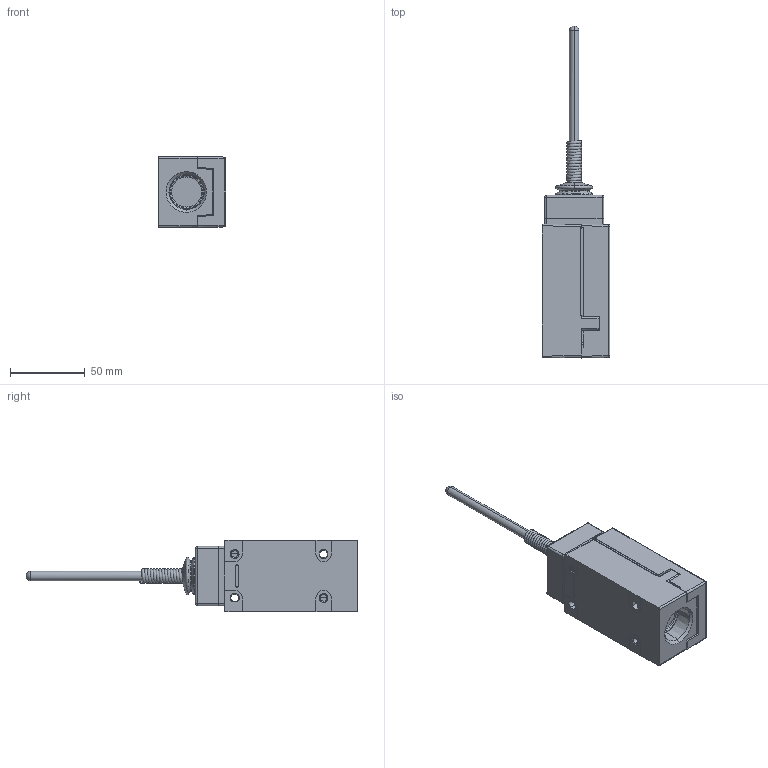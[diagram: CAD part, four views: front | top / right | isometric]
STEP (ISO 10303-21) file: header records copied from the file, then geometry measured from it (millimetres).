
FILE_DESCRIPTION((''),'2;1');
FILE_NAME('LSJ2B-7A','2012-12-06T',('E522935'),(''),'PRO/ENGINEER BY PARAMETRIC TECHNOLOGY CORPORATION, 2009460','PRO/ENGINEER BY PARAMETRIC TECHNOLOGY CORPORATION, 2009460','');
FILE_SCHEMA(('CONFIG_CONTROL_DESIGN'));
Length unit declared in the file: inch
Products named in the file (1): LSJ2B-7A
Bounding box: 45.34 x 222.28 x 47.62 mm (x, y, z)
Volume: 214498 mm3; surface area: 36062.1 mm2
Topology: 1 solids, 1 shells, 548 faces, 1420 edges, 871 vertices
Faces by surface type: plane 303, cylinder 155, cone 40, sphere 22, bspline 20, torus 8
Entity records: 24949 total; most frequent: CARTESIAN_POINT 11742, ORIENTED_EDGE 2836, DIRECTION 2655, EDGE_CURVE 1418, AXIS2_PLACEMENT_3D 923, VERTEX_POINT 871, VECTOR 809, LINE 809
